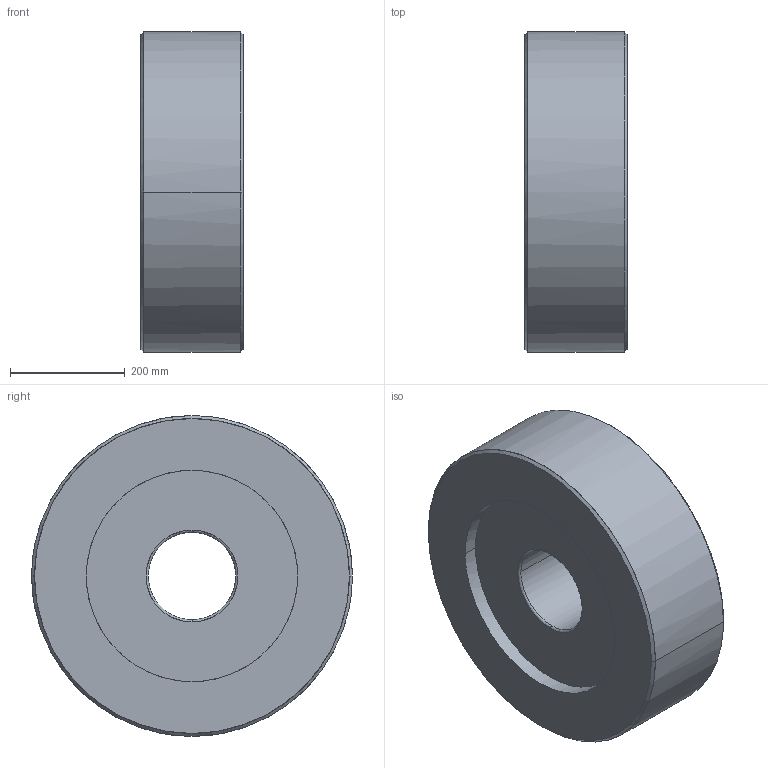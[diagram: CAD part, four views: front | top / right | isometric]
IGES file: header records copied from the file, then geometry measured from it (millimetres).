
Global section: native system: Kubotek KeyCreator; preprocessor: KCM Version 1.1.1442.0; author: KeyCreator User; organization: Self; date: 20170713.045540; units: inch
Bounding box: 177.8 x 558.8 x 558.8 mm (x, y, z)
Surface area: 873920.9 mm2 (no closed solid volume)
Topology: 0 solids, 0 shells, 20 faces, 128 edges, 128 vertices
Faces by surface type: bspline 20
